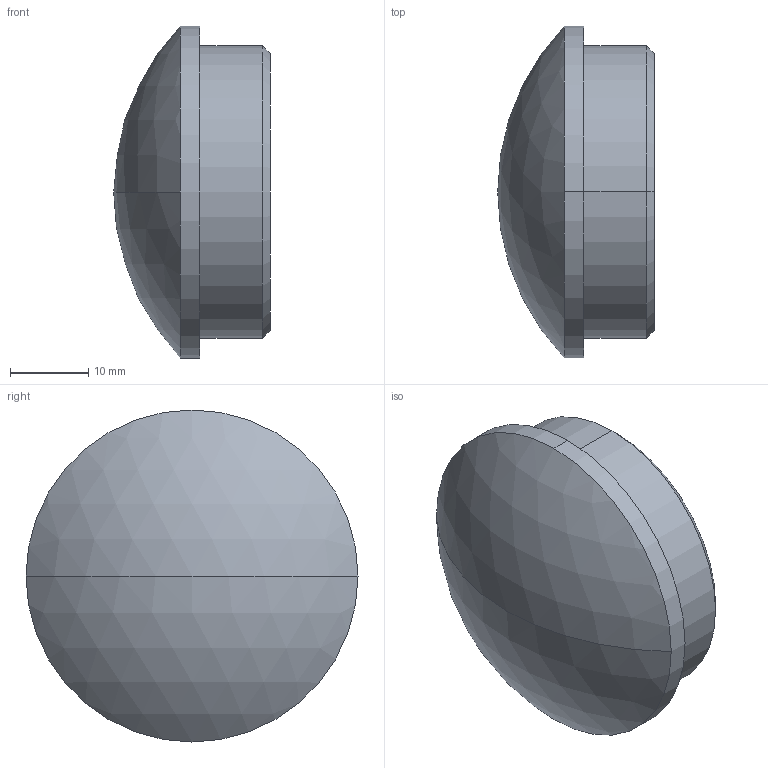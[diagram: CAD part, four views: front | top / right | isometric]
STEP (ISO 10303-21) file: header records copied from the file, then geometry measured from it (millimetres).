
FILE_DESCRIPTION (( 'STEP AP203' ), '1' );
FILE_NAME ('3D_GR1392_DN42.4x2.5_18380250..STEP', '2024-09-21T10:21:00', ( '' ), ( '' ), 'SwSTEP 2.0', 'SolidWorks 2024', '' );
FILE_SCHEMA (( 'CONFIG_CONTROL_DESIGN' ));
Length unit declared in the file: millimetre
Products named in the file (1): 3D_GR1392_DN42.4x2.5_18380250.
Bounding box: 20 x 42.4 x 42.4 mm (x, y, z)
Volume: 19681.8 mm3; surface area: 4371.2 mm2
Topology: 1 solids, 1 shells, 10 faces, 20 edges, 13 vertices
Faces by surface type: cylinder 4, cone 2, sphere 2, plane 2
Entity records: 347 total; most frequent: DIRECTION 56, CARTESIAN_POINT 44, ORIENTED_EDGE 40, AXIS2_PLACEMENT_3D 25, EDGE_CURVE 20, CIRCLE 14, VERTEX_POINT 13, EDGE_LOOP 11
